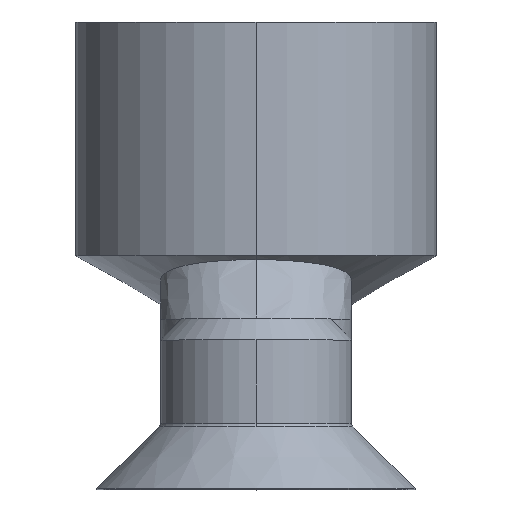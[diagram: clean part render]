
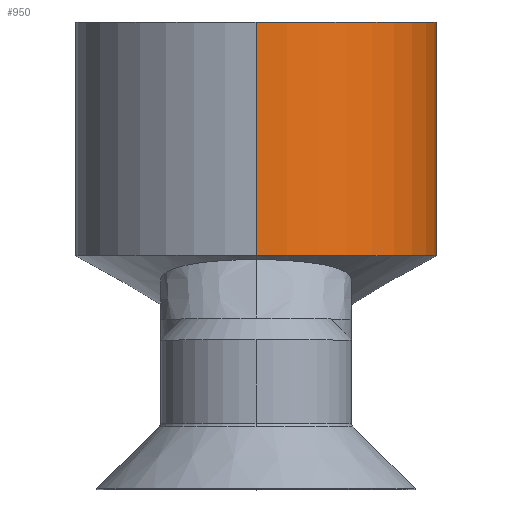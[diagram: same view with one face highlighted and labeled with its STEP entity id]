
A CAD part, top view. The second image highlights one B-rep face of the part: STEP entity #950.
In plain terms, the highlighted cylindrical face has radius 8.5 mm (diameter 17 mm), a partial arc.
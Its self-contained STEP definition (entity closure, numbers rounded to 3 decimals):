
#81 = DIRECTION ( 'NONE',  ( 0., 0., 1. ) ) ;
#178 = DIRECTION ( 'NONE',  ( 0., 1., 0. ) ) ;
#528 = CARTESIAN_POINT ( 'NONE',  ( 0., -11., -8.5 ) ) ;
#557 = CARTESIAN_POINT ( 'NONE',  ( 0., 0., -8.5 ) ) ;
#600 = ORIENTED_EDGE ( 'NONE', *, *, #4237, .F. ) ;
#710 = DIRECTION ( 'NONE',  ( 0., 0., 1. ) ) ;
#850 = DIRECTION ( 'NONE',  ( 0., 1., 0. ) ) ;
#950 = ADVANCED_FACE ( 'NONE', ( #3504 ), #3753, .T. ) ;
#975 = DIRECTION ( 'NONE',  ( 0., 0., 1. ) ) ;
#1138 = EDGE_CURVE ( 'NONE', #1456, #3907, #1349, .T. ) ;
#1301 = EDGE_CURVE ( 'NONE', #2318, #3925, #5048, .T. ) ;
#1322 = AXIS2_PLACEMENT_3D ( 'NONE', #1531, #2676, #710 ) ;
#1338 = CIRCLE ( 'NONE', #3773, 8.5 ) ;
#1349 = LINE ( 'NONE', #3974, #2350 ) ;
#1375 = EDGE_LOOP ( 'NONE', ( #2064, #3415, #600, #2089 ) ) ;
#1456 = VERTEX_POINT ( 'NONE', #1858 ) ;
#1531 = CARTESIAN_POINT ( 'NONE',  ( 0., 0., 0. ) ) ;
#1703 = CARTESIAN_POINT ( 'NONE',  ( 0., 0., 0. ) ) ;
#1858 = CARTESIAN_POINT ( 'NONE',  ( 0., -11., 8.5 ) ) ;
#1987 = AXIS2_PLACEMENT_3D ( 'NONE', #3206, #850, #81 ) ;
#2064 = ORIENTED_EDGE ( 'NONE', *, *, #2264, .T. ) ;
#2089 = ORIENTED_EDGE ( 'NONE', *, *, #1138, .F. ) ;
#2103 = DIRECTION ( 'NONE',  ( 0., 1., 0. ) ) ;
#2113 = VECTOR ( 'NONE', #178, 1000. ) ;
#2264 = EDGE_CURVE ( 'NONE', #1456, #2318, #4484, .T. ) ;
#2318 = VERTEX_POINT ( 'NONE', #528 ) ;
#2350 = VECTOR ( 'NONE', #2103, 1000. ) ;
#2676 = DIRECTION ( 'NONE',  ( 0., 1., 0. ) ) ;
#3206 = CARTESIAN_POINT ( 'NONE',  ( 0., -11., 0. ) ) ;
#3415 = ORIENTED_EDGE ( 'NONE', *, *, #1301, .T. ) ;
#3504 = FACE_OUTER_BOUND ( 'NONE', #1375, .T. ) ;
#3753 = CYLINDRICAL_SURFACE ( 'NONE', #1322, 8.5 ) ;
#3773 = AXIS2_PLACEMENT_3D ( 'NONE', #1703, #4453, #975 ) ;
#3907 = VERTEX_POINT ( 'NONE', #4872 ) ;
#3925 = VERTEX_POINT ( 'NONE', #557 ) ;
#3974 = CARTESIAN_POINT ( 'NONE',  ( 0., 0., 8.5 ) ) ;
#4237 = EDGE_CURVE ( 'NONE', #3907, #3925, #1338, .T. ) ;
#4453 = DIRECTION ( 'NONE',  ( 0., 1., 0. ) ) ;
#4484 = CIRCLE ( 'NONE', #1987, 8.5 ) ;
#4489 = CARTESIAN_POINT ( 'NONE',  ( 0., 0., -8.5 ) ) ;
#4872 = CARTESIAN_POINT ( 'NONE',  ( 0., 0., 8.5 ) ) ;
#5048 = LINE ( 'NONE', #4489, #2113 ) ;
